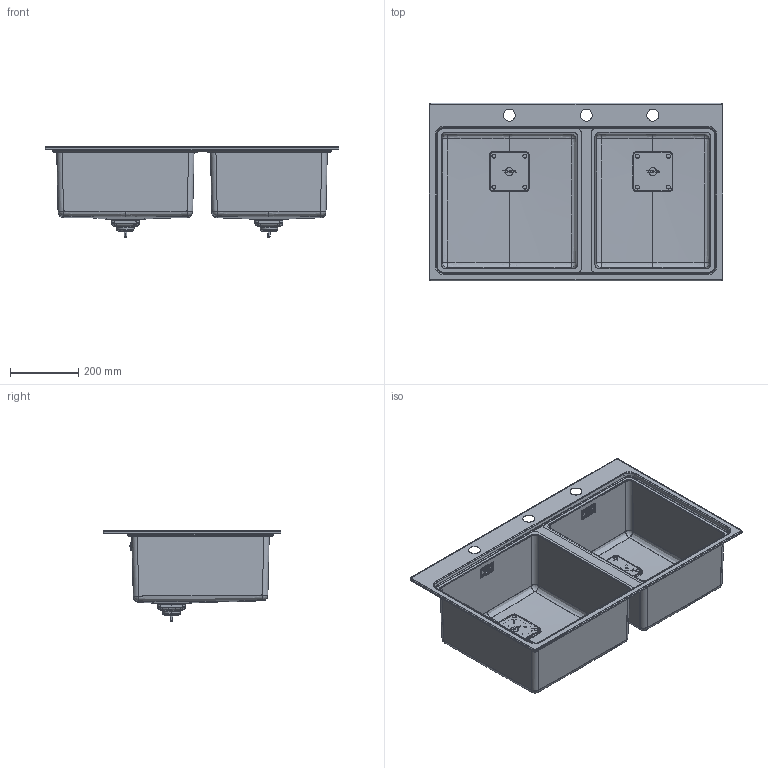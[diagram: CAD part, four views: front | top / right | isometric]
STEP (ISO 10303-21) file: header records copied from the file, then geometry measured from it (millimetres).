
FILE_DESCRIPTION((''),'2;1');
FILE_NAME('ZENIT_2C_86_ASM','2019-01-09T',('crodriguez'),('TEKA INDUSTRIAL, S.A.'),'CREO PARAMETRIC BY PTC INC, 2015200','CREO PARAMETRIC BY PTC INC, 2015200','');
FILE_SCHEMA(('CONFIG_CONTROL_DESIGN'));
Products named in the file (16): MESA_ZENIT_R15_86_2C; CUBETA_R15_40X40_D_CUAD_LASER; CUBETA_R15_34X40_D_CUAD_LASER; REB_MARCO; REB_EMBELLECEDOR; REB_CONJ_MARCO_EMBELLECEDOR_ASM; ZENIT_R15_2C_86_ASM; COPETE_CUADRADO; CESTILLA_CUADRADA; VALVULA_CUADRADA_ASM; TAPA_CUADRADA_PLASTICO; TAPA_CUADRADA_GOMA; TAPA_CUADRADA_INOX; A2M00009392; TAPA_CUADRADA_NUEVO_LOGO_ASM; ZENIT_2C_86_ASM
Assembly tree (21 placements, depth 4):
  ZENIT_2C_86_ASM
    ZENIT_R15_2C_86_ASM
      MESA_ZENIT_R15_86_2C
      CUBETA_R15_40X40_D_CUAD_LASER
      CUBETA_R15_34X40_D_CUAD_LASER
      REB_CONJ_MARCO_EMBELLECEDOR_ASM  x2
        REB_MARCO
        REB_EMBELLECEDOR
    VALVULA_CUADRADA_ASM  x2
      COPETE_CUADRADO
      CESTILLA_CUADRADA
    TAPA_CUADRADA_NUEVO_LOGO_ASM  x2
      TAPA_CUADRADA_PLASTICO
      TAPA_CUADRADA_GOMA
      TAPA_CUADRADA_INOX
      A2M00009392
Bounding box: 860 x 520 x 265.3 mm (x, y, z)
Volume: 1082640.9 mm3; surface area: 2357312 mm2
Topology: 15 solids, 37 shells, 4981 faces, 12884 edges, 7926 vertices
Faces by surface type: plane 1397, cylinder 1042, bspline 1022, torus 544, extrusion 408, cone 332, sphere 236
Entity records: 131720 total; most frequent: CARTESIAN_POINT 71696, ORIENTED_EDGE 13292, DIRECTION 11014, EDGE_CURVE 6696, VERTEX_POINT 4140, AXIS2_PLACEMENT_3D 3981, VECTOR 3052, LINE 2836
